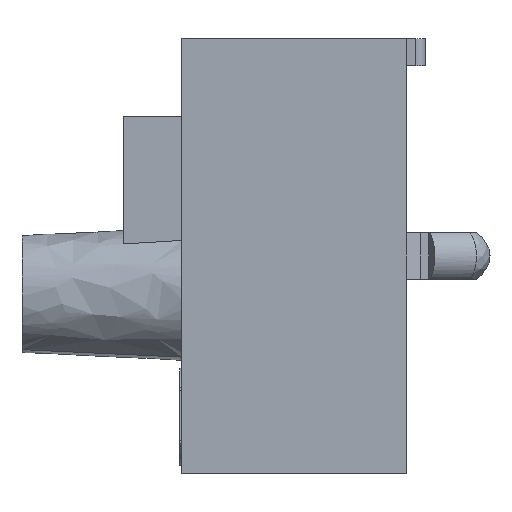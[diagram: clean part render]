
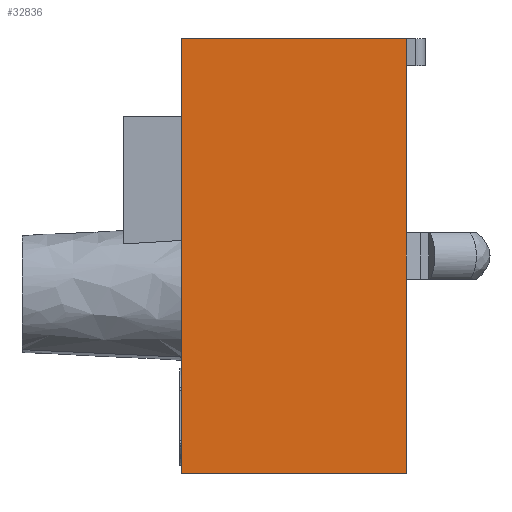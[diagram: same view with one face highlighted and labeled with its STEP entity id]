
A CAD part, left-side view. The second image highlights one B-rep face of the part: STEP entity #32836.
In plain terms, the highlighted planar face has unit normal (-1, 0, 0).
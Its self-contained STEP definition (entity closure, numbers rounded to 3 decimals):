
#13576=CARTESIAN_POINT(' ',(-14.2,-1.65,-22.3));
#13577=VERTEX_POINT(' ',#13576);
#13591=CARTESIAN_POINT(' ',(-14.2,9.85,-22.3));
#13596=DIRECTION(' ',(0.,-1.,0.));
#13601=VECTOR(' ',#13596,1.);
#13606=LINE('',#13591,#13601);
#13611=CARTESIAN_POINT(' ',(-14.2,9.85,-22.3));
#13612=VERTEX_POINT(' ',#13611);
#13616=EDGE_CURVE(' ',#13612,#13577,#13606,.T.);
#14276=CARTESIAN_POINT(' ',(-14.2,9.85,-22.3));
#14281=DIRECTION(' ',(0.,0.,1.));
#14286=VECTOR(' ',#14281,1.);
#14291=LINE('',#14276,#14286);
#14296=CARTESIAN_POINT(' ',(-14.2,9.85,0.));
#14297=VERTEX_POINT(' ',#14296);
#14301=EDGE_CURVE(' ',#13612,#14297,#14291,.T.);
#32621=CARTESIAN_POINT(' ',(-14.2,-1.65,0.));
#32626=DIRECTION(' ',(0.,0.,-1.));
#32631=VECTOR(' ',#32626,1.);
#32636=LINE('',#32621,#32631);
#32641=CARTESIAN_POINT(' ',(-14.2,-1.65,0.));
#32642=VERTEX_POINT(' ',#32641);
#32646=EDGE_CURVE(' ',#32642,#13577,#32636,.T.);
#32756=CARTESIAN_POINT(' ',(-14.2,-1.65,0.));
#32761=DIRECTION(' ',(-1.,0.,0.));
#32766=DIRECTION(' ',(0.,1.,0.));
#32771=AXIS2_PLACEMENT_3D(' ',#32756,#32761,#32766);
#32776=PLANE(' ',#32771);
#32781=ORIENTED_EDGE(' ',*,*,#13616,.T.);
#32786=ORIENTED_EDGE(' ',*,*,#32646,.F.);
#32791=CARTESIAN_POINT(' ',(-14.2,9.85,0.));
#32796=DIRECTION(' ',(0.,-1.,0.));
#32801=VECTOR(' ',#32796,1.);
#32806=LINE('',#32791,#32801);
#32811=EDGE_CURVE(' ',#14297,#32642,#32806,.T.);
#32816=ORIENTED_EDGE(' ',*,*,#32811,.F.);
#32821=ORIENTED_EDGE(' ',*,*,#14301,.F.);
#32826=EDGE_LOOP(' ',(#32781,#32786,#32816,#32821));
#32831=FACE_OUTER_BOUND(' ',#32826,.T.);
#32836=ADVANCED_FACE('',(#32831),#32776,.T.);
